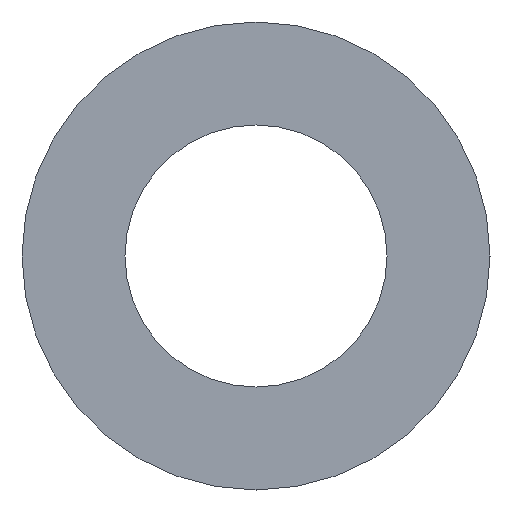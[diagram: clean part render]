
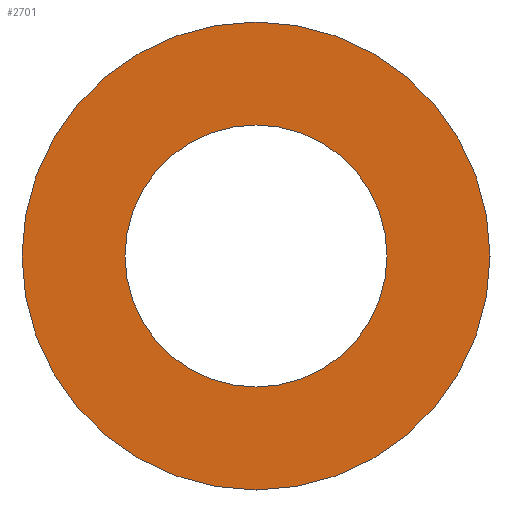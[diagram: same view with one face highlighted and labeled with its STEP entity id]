
A CAD part, front view. The second image highlights one B-rep face of the part: STEP entity #2701.
In plain terms, the highlighted planar face has unit normal (0, -1, 0).
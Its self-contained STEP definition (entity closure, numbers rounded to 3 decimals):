
#162 = EDGE_LOOP ( 'NONE', ( #1728, #871 ) ) ;
#190 = EDGE_CURVE ( 'NONE', #2964, #1548, #2984, .T. ) ;
#197 = CARTESIAN_POINT ( 'NONE',  ( 0., -16.5, 21. ) ) ;
#204 = CIRCLE ( 'NONE', #1114, 37.5 ) ;
#347 = DIRECTION ( 'NONE',  ( 0., 0., 1. ) ) ;
#445 = DIRECTION ( 'NONE',  ( 0., -1., 0. ) ) ;
#506 = CARTESIAN_POINT ( 'NONE',  ( 0., -16.5, 0. ) ) ;
#527 = DIRECTION ( 'NONE',  ( 0., -1., 0. ) ) ;
#752 = EDGE_CURVE ( 'NONE', #3028, #2868, #2055, .T. ) ;
#825 = DIRECTION ( 'NONE',  ( 0., 1., 0. ) ) ;
#871 = ORIENTED_EDGE ( 'NONE', *, *, #190, .T. ) ;
#873 = CARTESIAN_POINT ( 'NONE',  ( 0., -16.5, -21. ) ) ;
#994 = DIRECTION ( 'NONE',  ( 0., 0., -1. ) ) ;
#1114 = AXIS2_PLACEMENT_3D ( 'NONE', #2054, #527, #2067 ) ;
#1281 = EDGE_CURVE ( 'NONE', #2868, #3028, #3208, .T. ) ;
#1465 = ORIENTED_EDGE ( 'NONE', *, *, #752, .F. ) ;
#1477 = DIRECTION ( 'NONE',  ( 0., 0., -1. ) ) ;
#1543 = EDGE_LOOP ( 'NONE', ( #1743, #1465 ) ) ;
#1548 = VERTEX_POINT ( 'NONE', #2935 ) ;
#1590 = PLANE ( 'NONE',  #2313 ) ;
#1728 = ORIENTED_EDGE ( 'NONE', *, *, #2664, .T. ) ;
#1743 = ORIENTED_EDGE ( 'NONE', *, *, #1281, .F. ) ;
#1908 = AXIS2_PLACEMENT_3D ( 'NONE', #1969, #445, #1477 ) ;
#1969 = CARTESIAN_POINT ( 'NONE',  ( 0., -16.5, 0. ) ) ;
#1972 = DIRECTION ( 'NONE',  ( 0., 0., -1. ) ) ;
#2011 = DIRECTION ( 'NONE',  ( 0., -1., 0. ) ) ;
#2054 = CARTESIAN_POINT ( 'NONE',  ( 0., -16.5, 0. ) ) ;
#2055 = CIRCLE ( 'NONE', #1908, 21. ) ;
#2067 = DIRECTION ( 'NONE',  ( 0., 0., -1. ) ) ;
#2265 = AXIS2_PLACEMENT_3D ( 'NONE', #506, #2011, #994 ) ;
#2313 = AXIS2_PLACEMENT_3D ( 'NONE', #2348, #825, #347 ) ;
#2348 = CARTESIAN_POINT ( 'NONE',  ( 0., -16.5, 21. ) ) ;
#2351 = FACE_OUTER_BOUND ( 'NONE', #162, .T. ) ;
#2521 = DIRECTION ( 'NONE',  ( 0., -1., 0. ) ) ;
#2664 = EDGE_CURVE ( 'NONE', #1548, #2964, #204, .T. ) ;
#2701 = ADVANCED_FACE ( 'NONE', ( #2792, #2351 ), #1590, .F. ) ;
#2792 = FACE_BOUND ( 'NONE', #1543, .T. ) ;
#2868 = VERTEX_POINT ( 'NONE', #873 ) ;
#2935 = CARTESIAN_POINT ( 'NONE',  ( 0., -16.5, -37.5 ) ) ;
#2964 = VERTEX_POINT ( 'NONE', #2999 ) ;
#2984 = CIRCLE ( 'NONE', #3252, 37.5 ) ;
#2999 = CARTESIAN_POINT ( 'NONE',  ( 0., -16.5, 37.5 ) ) ;
#3028 = VERTEX_POINT ( 'NONE', #197 ) ;
#3208 = CIRCLE ( 'NONE', #2265, 21. ) ;
#3252 = AXIS2_PLACEMENT_3D ( 'NONE', #3267, #2521, #1972 ) ;
#3267 = CARTESIAN_POINT ( 'NONE',  ( 0., -16.5, 0. ) ) ;
